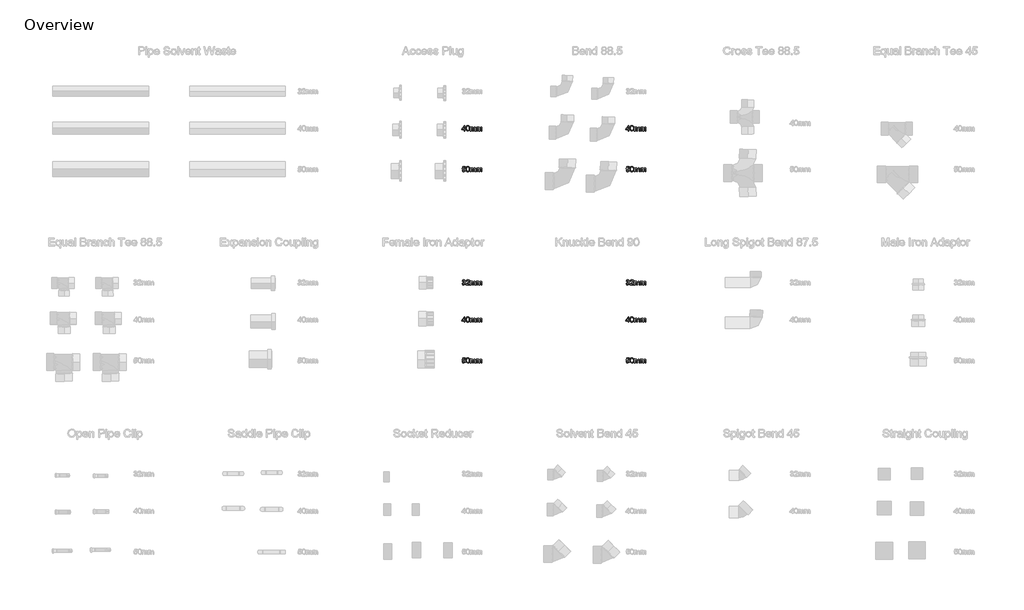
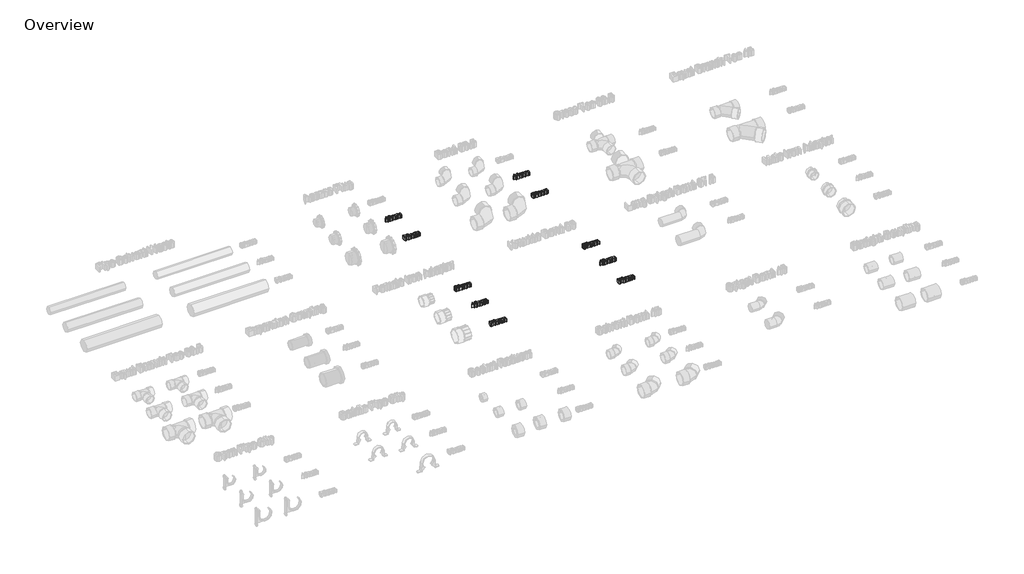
# One storey, part 7 of 10: 10 proxies.
"""IFC4 building model written with IfcOpenShell, lengths in millimetres."""

import ifcopenshell
import ifcopenshell.guid

model = None  # the IFC model being written
_history = None  # IfcOwnerHistory: only IFC2X3 demands one
_inside = {}  # id of a spatial element -> (the spatial element, [elements in it])
_under = {}  # id of a project, library or spatial element -> (it, [spatial elements below it])
_declared = {}  # id of a project -> (the project, [libraries it declares])
_typed = {}  # id of a type object -> (the type object, [elements of that type])
_made_of = {}  # id of a material, layer set ... -> (it, [elements and type objects made of it])


def new_model(schema):
    """Start an empty IFC model of exactly this schema.

    Asked for "IFC4X3", IfcOpenShell would pick the latest addendum, in which some entities
    have other attributes; the version numbers below select the first issue.
    IFC2X3 requires an IfcOwnerHistory on every rooted entity: one is made here for all.
    """
    global model, _history
    if schema == "IFC4X3":
        model = ifcopenshell.file(schema_version=(4, 3, 0, 0))
    else:
        model = ifcopenshell.file(schema=schema)
    _inside.clear()
    _under.clear()
    _declared.clear()
    _typed.clear()
    _made_of.clear()
    _history = None
    if model.schema == "IFC2X3":
        org = make("IfcOrganization", Name="unknown")
        user = make(
            "IfcPersonAndOrganization",
            ThePerson=make("IfcPerson", FamilyName="unknown"),
            TheOrganization=org,
        )
        app = make(
            "IfcApplication",
            ApplicationDeveloper=org,
            Version="unknown",
            ApplicationFullName="unknown",
            ApplicationIdentifier="unknown",
        )
        _history = make(
            "IfcOwnerHistory",
            OwningUser=user,
            OwningApplication=app,
            ChangeAction="ADDED",
            CreationDate=0,
        )
    return model


def make(cls, **values):
    """One entity of the class cls with the attributes given. An attribute that is None is left unset."""
    return model.create_entity(
        cls, **{name: value for name, value in values.items() if value is not None}
    )


def rooted(cls, **values):
    """An entity with a GlobalId (a new one), such as an element, a storey or a relation."""
    return make(cls, GlobalId=ifcopenshell.guid.new(), OwnerHistory=_history, **values)


def si_unit(unit_type, name, prefix=None):
    """IfcSIUnit, for example si_unit("LENGTHUNIT", "METRE", prefix="MILLI")."""
    return make("IfcSIUnit", UnitType=unit_type, Prefix=prefix, Name=name)


def assignment(units):
    """IfcUnitAssignment: the units of a project."""
    return None if units is None else make("IfcUnitAssignment", Units=units)


def point(xyz):
    """IfcCartesianPoint."""
    return None if xyz is None else make("IfcCartesianPoint", Coordinates=xyz)


def direction(xyz):
    """IfcDirection."""
    return None if xyz is None else make("IfcDirection", DirectionRatios=xyz)


def frame(location, z_axis=None, x_axis=None):
    """IfcAxis2Placement3D, a coordinate frame: its origin and axes. An axis left out is left unset."""
    return make(
        "IfcAxis2Placement3D",
        Location=point(location),
        Axis=direction(z_axis),
        RefDirection=direction(x_axis),
    )


def origin():
    """The frame at (0, 0, 0) with its axes left unset."""
    return frame((0.0, 0.0, 0.0))


def origin_with_axes():
    """The frame at (0, 0, 0) with the z axis (0, 0, 1) and the x axis (1, 0, 0) written out."""
    return frame((0.0, 0.0, 0.0), z_axis=(0.0, 0.0, 1.0), x_axis=(1.0, 0.0, 0.0))


def place(relative_to, where):
    """IfcLocalPlacement: puts the frame where relative to a parent placement (None: the world)."""
    return make(
        "IfcLocalPlacement", PlacementRelTo=relative_to, RelativePlacement=where
    )


def context(
    kind, dimensions, precision=None, world=None, true_north=None, identifier=None
):
    """IfcGeometricRepresentationContext, for example the 3D "Model" context."""
    return make(
        "IfcGeometricRepresentationContext",
        ContextIdentifier=identifier,
        ContextType=kind,
        CoordinateSpaceDimension=dimensions,
        Precision=precision,
        WorldCoordinateSystem=world,
        TrueNorth=true_north,
    )


def project(units=None, contexts=None):
    """IfcProject with its units and contexts."""
    return rooted(
        "IfcProject",
        Name="project",
        RepresentationContexts=contexts,
        UnitsInContext=assignment(units),
    )


def spatial(cls, under=None, at=None, **own):
    """A site, building, storey or space (cls), placed at a placement, below another one or the project."""
    s = rooted(cls, ObjectPlacement=at, **own)
    if under is not None:
        _under.setdefault(under.id(), (under, []))[1].append(s)
    return s


def polyline(points):
    """IfcPolyline through the points."""
    return make("IfcPolyline", Points=[point(p) for p in points])


def outline(outer, holes=None, kind="AREA"):
    """IfcArbitraryClosedProfileDef: a profile drawn as a closed curve; with holes, ...WithVoids."""
    if holes is None:
        return make("IfcArbitraryClosedProfileDef", ProfileType=kind, OuterCurve=outer)
    return make(
        "IfcArbitraryProfileDefWithVoids",
        ProfileType=kind,
        OuterCurve=outer,
        InnerCurves=holes,
    )


def extrude(swept, where, along, depth):
    """IfcExtrudedAreaSolid: the profile swept, set in the frame where, extruded along a direction by depth."""
    return make(
        "IfcExtrudedAreaSolid",
        SweptArea=swept,
        Position=where,
        ExtrudedDirection=direction(along),
        Depth=depth,
    )


def shape(context_of_items, identifier, shape_type, items):
    """IfcShapeRepresentation: the items that make up one representation, for example the "Body"."""
    return make(
        "IfcShapeRepresentation",
        ContextOfItems=context_of_items,
        RepresentationIdentifier=identifier,
        RepresentationType=shape_type,
        Items=items,
    )


def made_of(thing, what):
    """Note that an element or type object is made of a material, layer set ...; save() writes the relation."""
    if what is not None:
        _made_of.setdefault(what.id(), (what, []))[1].append(thing)
    return thing


def element(
    cls,
    number,
    at=None,
    inside=None,
    cuts=None,
    type_object=None,
    material=None,
    context=None,
    identifier="Body",
    shape_type=None,
    held_by="IfcProductDefinitionShape",
    body=None,
    shapes=None,
    **own,
):
    """One element of the class cls, such as IfcWall. Its Tag is "e" and its number.

    at: its placement. inside: the storey or other place that contains it. cuts: it is an
    opening in that element (IfcRelVoidsElement). A single representation is given by context,
    identifier, shape_type and body (its items); several are given by shapes. held_by: the class
    of the entity that holds the representations. save() writes the other relations.
    """
    e = rooted(cls, Tag="e%d" % number, ObjectPlacement=at, **own)
    if body is not None:
        shapes = [shape(context, identifier, shape_type, body)]
    if shapes is not None:
        e.Representation = make(held_by, Representations=shapes)
    if inside is not None:
        _inside.setdefault(inside.id(), (inside, []))[1].append(e)
    if cuts is not None:
        rooted(
            "IfcRelVoidsElement", RelatingBuildingElement=cuts, RelatedOpeningElement=e
        )
    if type_object is not None:
        _typed.setdefault(type_object.id(), (type_object, []))[1].append(e)
    return made_of(e, material)


def aggregate(whole, parts):
    """IfcRelAggregates: a whole, such as a stair, and the parts it consists of."""
    return rooted("IfcRelAggregates", RelatingObject=whole, RelatedObjects=parts)


def save(model, path):
    """Write the relations noted so far, then the file.

    IfcRelAggregates (storeys below a building ...), IfcRelContainedInSpatialStructure (elements
    in a storey), IfcRelDefinesByType, IfcRelAssociatesMaterial and IfcRelDeclares: one each for
    every whole, place, type object, material and project.
    """
    for whole, parts in _under.values():
        aggregate(whole, parts)
    for where, things in _inside.values():
        rooted(
            "IfcRelContainedInSpatialStructure",
            RelatedElements=things,
            RelatingStructure=where,
        )
    for kind, things in _typed.values():
        rooted("IfcRelDefinesByType", RelatedObjects=things, RelatingType=kind)
    for what, things in _made_of.values():
        rooted("IfcRelAssociatesMaterial", RelatedObjects=things, RelatingMaterial=what)
    for by, libraries in _declared.values():
        rooted("IfcRelDeclares", RelatingContext=by, RelatedDefinitions=libraries)
    model.write(path)


model = new_model("IFC4")

# Units and contexts
model_context = context("Model", 3, world=origin())
ifc_project = project(units=[si_unit("LENGTHUNIT", "METRE", prefix="MILLI")], contexts=[model_context])

# Site, building, storey
site = spatial("IfcSite", under=ifc_project)
building = spatial("IfcBuilding", under=site)
storey = spatial("IfcBuildingStorey", under=building, Name="Overview", Elevation=0.0)

# Proxies
placement = place(None, origin())
element("IfcBuildingElementProxy", 1, Name="20mm Arial", ObjectType="20mm Arial", at=placement, inside=storey, context=model_context, shape_type="SweptSolid", body=[
    extrude(outline(polyline([(-1698.2349117, 4421.4652453), (-1695.7733732, 4421.7729376), (-1694.4152001, 4419.1815914), (-1691.8743347, 4418.3883222), (-1688.8839501, 4419.4796684), (-1687.7733732, 4422.1815914), (-1688.8743347, 4424.7272645), (-1691.6724117, 4425.7344761), (-1693.3983732, 4425.4652453), (-1693.1243347, 4427.9267837), (-1689.9368347, 4428.6046684), (-1688.6964501, 4430.7777453), (-1689.5954886, 4432.7032261), (-1691.9127963, 4433.4652453), (-1694.2589501, 4432.6960145), (-1695.4656809, 4430.3883222), (-1697.9272194, 4430.6960145), (-1695.9127963, 4434.5565914), (-1691.9993347, 4435.9267837), (-1689.0305847, 4435.251303), (-1686.9536617, 4433.4051491), (-1686.2349117, 4430.9219761), (-1686.917604, 4428.6527453), (-1688.9368347, 4427.0229376), (-1686.2541424, 4425.3402453), (-1685.3118347, 4422.1383222), (-1687.1964501, 4417.7344761), (-1691.9608732, 4415.9267837), (-1696.2781809, 4417.470053), (-1698.2349117, 4421.4652453)])), origin_with_axes(), (0.0, 0.0, 1.0), 15.0),
    extrude(outline(polyline([(-1670.542604, 4418.6960145), (-1670.542604, 4416.2344761), (-1683.4656809, 4416.2344761), (-1683.2012578, 4417.9315914), (-1681.7060655, 4420.5445722), (-1678.6243347, 4423.3979376), (-1674.3743347, 4427.4988991), (-1673.3118347, 4430.2873607), (-1674.3142386, 4432.5445722), (-1676.9320271, 4433.4652453), (-1679.6603924, 4432.5662068), (-1680.6964501, 4430.0806299), (-1683.1579886, 4430.3883222), (-1681.2709694, 4434.5085145), (-1676.8791424, 4435.9267837), (-1672.4728924, 4434.3498607), (-1670.8502963, 4430.4363991), (-1671.2877963, 4428.1022645), (-1672.7421232, 4425.688803), (-1676.2685655, 4422.3162068), (-1679.1002963, 4419.9484184), (-1680.2108732, 4418.6960145), (-1670.542604, 4418.6960145)])), origin_with_axes(), (0.0, 0.0, 1.0), 15.0),
    extrude(outline(polyline([(-1667.4656809, 4416.2344761), (-1667.4656809, 4430.6960145), (-1665.0041424, 4430.6960145), (-1665.0041424, 4428.3162068), (-1663.3118347, 4430.2657261), (-1660.9031809, 4431.0037068), (-1658.4368347, 4430.251303), (-1657.0810655, 4428.1431299), (-1652.7349117, 4431.0037068), (-1649.5161617, 4429.813803), (-1648.3887578, 4426.1479376), (-1648.3887578, 4416.2344761), (-1650.8502963, 4416.2344761), (-1650.8502963, 4425.0902453), (-1651.0786617, 4427.1455337), (-1655.7325078, 4427.5565914), (-1656.6964501, 4424.3979376), (-1656.6964501, 4416.2344761), (-1659.1579886, 4416.2344761), (-1659.1579886, 4425.3642837), (-1659.7277001, 4427.7488991), (-1661.5954886, 4428.5421684), (-1663.417604, 4428.0133222), (-1664.6291424, 4426.4652453), (-1665.0041424, 4423.5277453), (-1665.0041424, 4416.2344761), (-1667.4656809, 4416.2344761)])), origin_with_axes(), (0.0, 0.0, 1.0), 15.0),
    extrude(outline(polyline([(-1644.6964501, 4416.2344761), (-1644.6964501, 4430.6960145), (-1642.2349117, 4430.6960145), (-1642.2349117, 4428.3162068), (-1640.542604, 4430.2657261), (-1638.1339501, 4431.0037068), (-1635.667604, 4430.251303), (-1634.3118347, 4428.1431299), (-1629.9656809, 4431.0037068), (-1626.7469309, 4429.813803), (-1625.6195271, 4426.1479376), (-1625.6195271, 4416.2344761), (-1628.0810655, 4416.2344761), (-1628.0810655, 4425.0902453), (-1628.3094309, 4427.1455337), (-1632.9632771, 4427.5565914), (-1633.9272194, 4424.3979376), (-1633.9272194, 4416.2344761), (-1636.3887578, 4416.2344761), (-1636.3887578, 4425.3642837), (-1636.9584694, 4427.7488991), (-1638.8262578, 4428.5421684), (-1640.6483732, 4428.0133222), (-1641.8599117, 4426.4652453), (-1642.2349117, 4423.5277453), (-1642.2349117, 4416.2344761), (-1644.6964501, 4416.2344761)])), origin_with_axes(), (0.0, 0.0, 1.0), 15.0),
])
element("IfcBuildingElementProxy", 2, Name="20mm Arial", ObjectType="20mm Arial", at=placement, inside=storey, context=model_context, shape_type="SweptSolid", body=[
    extrude(outline(polyline([(-1690.2349117, 4280.5685355), (-1690.2349117, 4285.1839201), (-1699.1579886, 4285.1839201), (-1699.1579886, 4287.6454586), (-1689.6195271, 4299.9531509), (-1687.7733732, 4299.9531509), (-1687.7733732, 4287.6454586), (-1685.3118347, 4287.6454586), (-1685.3118347, 4285.1839201), (-1687.7733732, 4285.1839201), (-1687.7733732, 4280.5685355), (-1690.2349117, 4280.5685355)]), holes=[polyline([(-1690.2349117, 4287.6454586), (-1690.2349117, 4295.2512278), (-1696.1291424, 4287.6454586), (-1690.2349117, 4287.6454586)])]), origin_with_axes(), (0.0, 0.0, 1.0), 15.0),
    extrude(outline(polyline([(-1683.1579886, 4290.2560355), (-1682.4344309, 4295.9219009), (-1680.2853924, 4299.1887278), (-1676.6964501, 4300.2608432), (-1673.8214501, 4299.6262278), (-1671.8358732, 4297.7969009), (-1670.6820271, 4294.8834393), (-1670.2349117, 4290.2560355), (-1670.9512578, 4284.6142086), (-1673.0930847, 4281.3401701), (-1676.6964501, 4280.2608432), (-1681.1964501, 4282.1358432), (-1683.1579886, 4290.2560355)]), holes=[polyline([(-1680.6964501, 4290.2608432), (-1679.542604, 4284.1478624), (-1676.6964501, 4282.7223816), (-1673.8502963, 4284.1526701), (-1672.6964501, 4290.2608432), (-1673.8118347, 4296.3041124), (-1676.7252963, 4297.7993047), (-1679.5041424, 4296.481997), (-1680.6964501, 4290.2608432)])]), origin_with_axes(), (0.0, 0.0, 1.0), 15.0),
    extrude(outline(polyline([(-1667.4656809, 4280.5685355), (-1667.4656809, 4295.030074), (-1665.0041424, 4295.030074), (-1665.0041424, 4292.6502663), (-1663.3118347, 4294.5997855), (-1660.9031809, 4295.3377663), (-1658.4368347, 4294.5853624), (-1657.0810655, 4292.4771893), (-1652.7349117, 4295.3377663), (-1649.5161617, 4294.1478624), (-1648.3887578, 4290.481997), (-1648.3887578, 4280.5685355), (-1650.8502963, 4280.5685355), (-1650.8502963, 4289.4243047), (-1651.0786617, 4291.4795932), (-1655.7325078, 4291.8906509), (-1656.6964501, 4288.731997), (-1656.6964501, 4280.5685355), (-1659.1579886, 4280.5685355), (-1659.1579886, 4289.6983432), (-1659.7277001, 4292.0829586), (-1661.5954886, 4292.8762278), (-1663.417604, 4292.3473816), (-1664.6291424, 4290.7993047), (-1665.0041424, 4287.8618047), (-1665.0041424, 4280.5685355), (-1667.4656809, 4280.5685355)])), origin_with_axes(), (0.0, 0.0, 1.0), 15.0),
    extrude(outline(polyline([(-1644.6964501, 4280.5685355), (-1644.6964501, 4295.030074), (-1642.2349117, 4295.030074), (-1642.2349117, 4292.6502663), (-1640.542604, 4294.5997855), (-1638.1339501, 4295.3377663), (-1635.667604, 4294.5853624), (-1634.3118347, 4292.4771893), (-1629.9656809, 4295.3377663), (-1626.7469309, 4294.1478624), (-1625.6195271, 4290.481997), (-1625.6195271, 4280.5685355), (-1628.0810655, 4280.5685355), (-1628.0810655, 4289.4243047), (-1628.3094309, 4291.4795932), (-1632.9632771, 4291.8906509), (-1633.9272194, 4288.731997), (-1633.9272194, 4280.5685355), (-1636.3887578, 4280.5685355), (-1636.3887578, 4289.6983432), (-1636.9584694, 4292.0829586), (-1638.8262578, 4292.8762278), (-1640.6483732, 4292.3473816), (-1641.8599117, 4290.7993047), (-1642.2349117, 4287.8618047), (-1642.2349117, 4280.5685355), (-1644.6964501, 4280.5685355)])), origin_with_axes(), (0.0, 0.0, 1.0), 15.0),
])
element("IfcBuildingElementProxy", 3, Name="20mm Arial", ObjectType="20mm Arial", at=placement, inside=storey, context=model_context, shape_type="SweptSolid", body=[
    extrude(outline(polyline([(-1698.2349117, 4136.1445961), (-1695.7733732, 4136.4522884), (-1694.5329886, 4133.9162307), (-1691.9608732, 4133.067673), (-1688.8743347, 4134.2479615), (-1687.7733732, 4137.380173), (-1688.8046232, 4140.3032499), (-1691.9224117, 4141.3753653), (-1694.0834694, 4140.9474807), (-1695.4656809, 4139.8369038), (-1697.9272194, 4140.1445961), (-1695.7733732, 4150.2984422), (-1686.2349117, 4150.2984422), (-1686.2349117, 4147.8369038), (-1693.7829886, 4147.8369038), (-1694.8358732, 4142.4138269), (-1691.2349117, 4143.8369038), (-1687.0257771, 4142.0724807), (-1685.3118347, 4137.5340192), (-1686.855104, 4132.9667115), (-1691.9704886, 4130.6061346), (-1696.3142386, 4132.1229615), (-1698.2349117, 4136.1445961)])), origin_with_axes(), (0.0, 0.0, 1.0), 15.0),
    extrude(outline(polyline([(-1683.1579886, 4140.6013269), (-1682.4344309, 4146.2671922), (-1680.2853924, 4149.5340192), (-1676.6964501, 4150.6061346), (-1673.8214501, 4149.9715192), (-1671.8358732, 4148.1421922), (-1670.6820271, 4145.2287307), (-1670.2349117, 4140.6013269), (-1670.9512578, 4134.9594999), (-1673.0930847, 4131.6854615), (-1676.6964501, 4130.6061346), (-1681.1964501, 4132.4811346), (-1683.1579886, 4140.6013269)]), holes=[polyline([(-1680.6964501, 4140.6061346), (-1679.542604, 4134.4931538), (-1676.6964501, 4133.067673), (-1673.8502963, 4134.4979615), (-1672.6964501, 4140.6061346), (-1673.8118347, 4146.6494038), (-1676.7252963, 4148.1445961), (-1679.5041424, 4146.8272884), (-1680.6964501, 4140.6061346)])]), origin_with_axes(), (0.0, 0.0, 1.0), 15.0),
    extrude(outline(polyline([(-1667.4656809, 4130.9138269), (-1667.4656809, 4145.3753653), (-1665.0041424, 4145.3753653), (-1665.0041424, 4142.9955576), (-1663.3118347, 4144.9450769), (-1660.9031809, 4145.6830576), (-1658.4368347, 4144.9306538), (-1657.0810655, 4142.8224807), (-1652.7349117, 4145.6830576), (-1649.5161617, 4144.4931538), (-1648.3887578, 4140.8272884), (-1648.3887578, 4130.9138269), (-1650.8502963, 4130.9138269), (-1650.8502963, 4139.7695961), (-1651.0786617, 4141.8248846), (-1655.7325078, 4142.2359422), (-1656.6964501, 4139.0772884), (-1656.6964501, 4130.9138269), (-1659.1579886, 4130.9138269), (-1659.1579886, 4140.0436346), (-1659.7277001, 4142.4282499), (-1661.5954886, 4143.2215192), (-1663.417604, 4142.692673), (-1664.6291424, 4141.1445961), (-1665.0041424, 4138.2070961), (-1665.0041424, 4130.9138269), (-1667.4656809, 4130.9138269)])), origin_with_axes(), (0.0, 0.0, 1.0), 15.0),
    extrude(outline(polyline([(-1644.6964501, 4130.9138269), (-1644.6964501, 4145.3753653), (-1642.2349117, 4145.3753653), (-1642.2349117, 4142.9955576), (-1640.542604, 4144.9450769), (-1638.1339501, 4145.6830576), (-1635.667604, 4144.9306538), (-1634.3118347, 4142.8224807), (-1629.9656809, 4145.6830576), (-1626.7469309, 4144.4931538), (-1625.6195271, 4140.8272884), (-1625.6195271, 4130.9138269), (-1628.0810655, 4130.9138269), (-1628.0810655, 4139.7695961), (-1628.3094309, 4141.8248846), (-1632.9632771, 4142.2359422), (-1633.9272194, 4139.0772884), (-1633.9272194, 4130.9138269), (-1636.3887578, 4130.9138269), (-1636.3887578, 4140.0436346), (-1636.9584694, 4142.4282499), (-1638.8262578, 4143.2215192), (-1640.6483732, 4142.692673), (-1641.8599117, 4141.1445961), (-1642.2349117, 4138.2070961), (-1642.2349117, 4130.9138269), (-1644.6964501, 4130.9138269)])), origin_with_axes(), (0.0, 0.0, 1.0), 15.0),
])
element("IfcBuildingElementProxy", 4, Name="20mm Arial", ObjectType="20mm Arial", at=placement, inside=storey, context=model_context, shape_type="SweptSolid", body=[
    extrude(outline(polyline([(-1098.2349117, 4421.4652453), (-1095.7733732, 4421.7729376), (-1094.4152001, 4419.1815914), (-1091.8743347, 4418.3883222), (-1088.8839501, 4419.4796684), (-1087.7733732, 4422.1815914), (-1088.8743347, 4424.7272645), (-1091.6724117, 4425.7344761), (-1093.3983732, 4425.4652453), (-1093.1243347, 4427.9267837), (-1089.9368347, 4428.6046684), (-1088.6964501, 4430.7777453), (-1089.5954886, 4432.7032261), (-1091.9127963, 4433.4652453), (-1094.2589501, 4432.6960145), (-1095.4656809, 4430.3883222), (-1097.9272194, 4430.6960145), (-1095.9127963, 4434.5565914), (-1091.9993347, 4435.9267837), (-1089.0305847, 4435.251303), (-1086.9536617, 4433.4051491), (-1086.2349117, 4430.9219761), (-1086.917604, 4428.6527453), (-1088.9368347, 4427.0229376), (-1086.2541424, 4425.3402453), (-1085.3118347, 4422.1383222), (-1087.1964501, 4417.7344761), (-1091.9608732, 4415.9267837), (-1096.2781809, 4417.470053), (-1098.2349117, 4421.4652453)])), origin_with_axes(), (0.0, 0.0, 1.0), 15.0),
    extrude(outline(polyline([(-1070.542604, 4418.6960145), (-1070.542604, 4416.2344761), (-1083.4656809, 4416.2344761), (-1083.2012578, 4417.9315914), (-1081.7060655, 4420.5445722), (-1078.6243347, 4423.3979376), (-1074.3743347, 4427.4988991), (-1073.3118347, 4430.2873607), (-1074.3142386, 4432.5445722), (-1076.9320271, 4433.4652453), (-1079.6603924, 4432.5662068), (-1080.6964501, 4430.0806299), (-1083.1579886, 4430.3883222), (-1081.2709694, 4434.5085145), (-1076.8791424, 4435.9267837), (-1072.4728924, 4434.3498607), (-1070.8502963, 4430.4363991), (-1071.2877963, 4428.1022645), (-1072.7421232, 4425.688803), (-1076.2685655, 4422.3162068), (-1079.1002963, 4419.9484184), (-1080.2108732, 4418.6960145), (-1070.542604, 4418.6960145)])), origin_with_axes(), (0.0, 0.0, 1.0), 15.0),
    extrude(outline(polyline([(-1067.4656809, 4416.2344761), (-1067.4656809, 4430.6960145), (-1065.0041424, 4430.6960145), (-1065.0041424, 4428.3162068), (-1063.3118347, 4430.2657261), (-1060.9031809, 4431.0037068), (-1058.4368347, 4430.251303), (-1057.0810655, 4428.1431299), (-1052.7349117, 4431.0037068), (-1049.5161617, 4429.813803), (-1048.3887578, 4426.1479376), (-1048.3887578, 4416.2344761), (-1050.8502963, 4416.2344761), (-1050.8502963, 4425.0902453), (-1051.0786617, 4427.1455337), (-1055.7325078, 4427.5565914), (-1056.6964501, 4424.3979376), (-1056.6964501, 4416.2344761), (-1059.1579886, 4416.2344761), (-1059.1579886, 4425.3642837), (-1059.7277001, 4427.7488991), (-1061.5954886, 4428.5421684), (-1063.417604, 4428.0133222), (-1064.6291424, 4426.4652453), (-1065.0041424, 4423.5277453), (-1065.0041424, 4416.2344761), (-1067.4656809, 4416.2344761)])), origin_with_axes(), (0.0, 0.0, 1.0), 15.0),
    extrude(outline(polyline([(-1044.6964501, 4416.2344761), (-1044.6964501, 4430.6960145), (-1042.2349117, 4430.6960145), (-1042.2349117, 4428.3162068), (-1040.542604, 4430.2657261), (-1038.1339501, 4431.0037068), (-1035.667604, 4430.251303), (-1034.3118347, 4428.1431299), (-1029.9656809, 4431.0037068), (-1026.7469309, 4429.813803), (-1025.6195271, 4426.1479376), (-1025.6195271, 4416.2344761), (-1028.0810655, 4416.2344761), (-1028.0810655, 4425.0902453), (-1028.3094309, 4427.1455337), (-1032.9632771, 4427.5565914), (-1033.9272194, 4424.3979376), (-1033.9272194, 4416.2344761), (-1036.3887578, 4416.2344761), (-1036.3887578, 4425.3642837), (-1036.9584694, 4427.7488991), (-1038.8262578, 4428.5421684), (-1040.6483732, 4428.0133222), (-1041.8599117, 4426.4652453), (-1042.2349117, 4423.5277453), (-1042.2349117, 4416.2344761), (-1044.6964501, 4416.2344761)])), origin_with_axes(), (0.0, 0.0, 1.0), 15.0),
])
element("IfcBuildingElementProxy", 5, Name="20mm Arial", ObjectType="20mm Arial", at=placement, inside=storey, context=model_context, shape_type="SweptSolid", body=[
    extrude(outline(polyline([(-1090.2349117, 4280.5685355), (-1090.2349117, 4285.1839201), (-1099.1579886, 4285.1839201), (-1099.1579886, 4287.6454586), (-1089.6195271, 4299.9531509), (-1087.7733732, 4299.9531509), (-1087.7733732, 4287.6454586), (-1085.3118347, 4287.6454586), (-1085.3118347, 4285.1839201), (-1087.7733732, 4285.1839201), (-1087.7733732, 4280.5685355), (-1090.2349117, 4280.5685355)]), holes=[polyline([(-1090.2349117, 4287.6454586), (-1090.2349117, 4295.2512278), (-1096.1291424, 4287.6454586), (-1090.2349117, 4287.6454586)])]), origin_with_axes(), (0.0, 0.0, 1.0), 15.0),
    extrude(outline(polyline([(-1083.1579886, 4290.2560355), (-1082.4344309, 4295.9219009), (-1080.2853924, 4299.1887278), (-1076.6964501, 4300.2608432), (-1073.8214501, 4299.6262278), (-1071.8358732, 4297.7969009), (-1070.6820271, 4294.8834393), (-1070.2349117, 4290.2560355), (-1070.9512578, 4284.6142086), (-1073.0930847, 4281.3401701), (-1076.6964501, 4280.2608432), (-1081.1964501, 4282.1358432), (-1083.1579886, 4290.2560355)]), holes=[polyline([(-1080.6964501, 4290.2608432), (-1079.542604, 4284.1478624), (-1076.6964501, 4282.7223816), (-1073.8502963, 4284.1526701), (-1072.6964501, 4290.2608432), (-1073.8118347, 4296.3041124), (-1076.7252963, 4297.7993047), (-1079.5041424, 4296.481997), (-1080.6964501, 4290.2608432)])]), origin_with_axes(), (0.0, 0.0, 1.0), 15.0),
    extrude(outline(polyline([(-1067.4656809, 4280.5685355), (-1067.4656809, 4295.030074), (-1065.0041424, 4295.030074), (-1065.0041424, 4292.6502663), (-1063.3118347, 4294.5997855), (-1060.9031809, 4295.3377663), (-1058.4368347, 4294.5853624), (-1057.0810655, 4292.4771893), (-1052.7349117, 4295.3377663), (-1049.5161617, 4294.1478624), (-1048.3887578, 4290.481997), (-1048.3887578, 4280.5685355), (-1050.8502963, 4280.5685355), (-1050.8502963, 4289.4243047), (-1051.0786617, 4291.4795932), (-1055.7325078, 4291.8906509), (-1056.6964501, 4288.731997), (-1056.6964501, 4280.5685355), (-1059.1579886, 4280.5685355), (-1059.1579886, 4289.6983432), (-1059.7277001, 4292.0829586), (-1061.5954886, 4292.8762278), (-1063.417604, 4292.3473816), (-1064.6291424, 4290.7993047), (-1065.0041424, 4287.8618047), (-1065.0041424, 4280.5685355), (-1067.4656809, 4280.5685355)])), origin_with_axes(), (0.0, 0.0, 1.0), 15.0),
    extrude(outline(polyline([(-1044.6964501, 4280.5685355), (-1044.6964501, 4295.030074), (-1042.2349117, 4295.030074), (-1042.2349117, 4292.6502663), (-1040.542604, 4294.5997855), (-1038.1339501, 4295.3377663), (-1035.667604, 4294.5853624), (-1034.3118347, 4292.4771893), (-1029.9656809, 4295.3377663), (-1026.7469309, 4294.1478624), (-1025.6195271, 4290.481997), (-1025.6195271, 4280.5685355), (-1028.0810655, 4280.5685355), (-1028.0810655, 4289.4243047), (-1028.3094309, 4291.4795932), (-1032.9632771, 4291.8906509), (-1033.9272194, 4288.731997), (-1033.9272194, 4280.5685355), (-1036.3887578, 4280.5685355), (-1036.3887578, 4289.6983432), (-1036.9584694, 4292.0829586), (-1038.8262578, 4292.8762278), (-1040.6483732, 4292.3473816), (-1041.8599117, 4290.7993047), (-1042.2349117, 4287.8618047), (-1042.2349117, 4280.5685355), (-1044.6964501, 4280.5685355)])), origin_with_axes(), (0.0, 0.0, 1.0), 15.0),
])
element("IfcBuildingElementProxy", 6, Name="20mm Arial", ObjectType="20mm Arial", at=placement, inside=storey, context=model_context, shape_type="SweptSolid", body=[
    extrude(outline(polyline([(-1098.2349117, 4136.1445961), (-1095.7733732, 4136.4522884), (-1094.5329886, 4133.9162307), (-1091.9608732, 4133.067673), (-1088.8743347, 4134.2479615), (-1087.7733732, 4137.380173), (-1088.8046232, 4140.3032499), (-1091.9224117, 4141.3753653), (-1094.0834694, 4140.9474807), (-1095.4656809, 4139.8369038), (-1097.9272194, 4140.1445961), (-1095.7733732, 4150.2984422), (-1086.2349117, 4150.2984422), (-1086.2349117, 4147.8369038), (-1093.7829886, 4147.8369038), (-1094.8358732, 4142.4138269), (-1091.2349117, 4143.8369038), (-1087.0257771, 4142.0724807), (-1085.3118347, 4137.5340192), (-1086.855104, 4132.9667115), (-1091.9704886, 4130.6061346), (-1096.3142386, 4132.1229615), (-1098.2349117, 4136.1445961)])), origin_with_axes(), (0.0, 0.0, 1.0), 15.0),
    extrude(outline(polyline([(-1083.1579886, 4140.6013269), (-1082.4344309, 4146.2671922), (-1080.2853924, 4149.5340192), (-1076.6964501, 4150.6061346), (-1073.8214501, 4149.9715192), (-1071.8358732, 4148.1421922), (-1070.6820271, 4145.2287307), (-1070.2349117, 4140.6013269), (-1070.9512578, 4134.9594999), (-1073.0930847, 4131.6854615), (-1076.6964501, 4130.6061346), (-1081.1964501, 4132.4811346), (-1083.1579886, 4140.6013269)]), holes=[polyline([(-1080.6964501, 4140.6061346), (-1079.542604, 4134.4931538), (-1076.6964501, 4133.067673), (-1073.8502963, 4134.4979615), (-1072.6964501, 4140.6061346), (-1073.8118347, 4146.6494038), (-1076.7252963, 4148.1445961), (-1079.5041424, 4146.8272884), (-1080.6964501, 4140.6061346)])]), origin_with_axes(), (0.0, 0.0, 1.0), 15.0),
    extrude(outline(polyline([(-1067.4656809, 4130.9138269), (-1067.4656809, 4145.3753653), (-1065.0041424, 4145.3753653), (-1065.0041424, 4142.9955576), (-1063.3118347, 4144.9450769), (-1060.9031809, 4145.6830576), (-1058.4368347, 4144.9306538), (-1057.0810655, 4142.8224807), (-1052.7349117, 4145.6830576), (-1049.5161617, 4144.4931538), (-1048.3887578, 4140.8272884), (-1048.3887578, 4130.9138269), (-1050.8502963, 4130.9138269), (-1050.8502963, 4139.7695961), (-1051.0786617, 4141.8248846), (-1055.7325078, 4142.2359422), (-1056.6964501, 4139.0772884), (-1056.6964501, 4130.9138269), (-1059.1579886, 4130.9138269), (-1059.1579886, 4140.0436346), (-1059.7277001, 4142.4282499), (-1061.5954886, 4143.2215192), (-1063.417604, 4142.692673), (-1064.6291424, 4141.1445961), (-1065.0041424, 4138.2070961), (-1065.0041424, 4130.9138269), (-1067.4656809, 4130.9138269)])), origin_with_axes(), (0.0, 0.0, 1.0), 15.0),
    extrude(outline(polyline([(-1044.6964501, 4130.9138269), (-1044.6964501, 4145.3753653), (-1042.2349117, 4145.3753653), (-1042.2349117, 4142.9955576), (-1040.542604, 4144.9450769), (-1038.1339501, 4145.6830576), (-1035.667604, 4144.9306538), (-1034.3118347, 4142.8224807), (-1029.9656809, 4145.6830576), (-1026.7469309, 4144.4931538), (-1025.6195271, 4140.8272884), (-1025.6195271, 4130.9138269), (-1028.0810655, 4130.9138269), (-1028.0810655, 4139.7695961), (-1028.3094309, 4141.8248846), (-1032.9632771, 4142.2359422), (-1033.9272194, 4139.0772884), (-1033.9272194, 4130.9138269), (-1036.3887578, 4130.9138269), (-1036.3887578, 4140.0436346), (-1036.9584694, 4142.4282499), (-1038.8262578, 4143.2215192), (-1040.6483732, 4142.692673), (-1041.8599117, 4141.1445961), (-1042.2349117, 4138.2070961), (-1042.2349117, 4130.9138269), (-1044.6964501, 4130.9138269)])), origin_with_axes(), (0.0, 0.0, 1.0), 15.0),
])
element("IfcBuildingElementProxy", 7, Name="20mm Arial", ObjectType="20mm Arial", at=placement, inside=storey, context=model_context, shape_type="SweptSolid", body=[
    extrude(outline(polyline([(-1690.2349117, 4980.5685355), (-1690.2349117, 4985.1839201), (-1699.1579886, 4985.1839201), (-1699.1579886, 4987.6454586), (-1689.6195271, 4999.9531509), (-1687.7733732, 4999.9531509), (-1687.7733732, 4987.6454586), (-1685.3118347, 4987.6454586), (-1685.3118347, 4985.1839201), (-1687.7733732, 4985.1839201), (-1687.7733732, 4980.5685355), (-1690.2349117, 4980.5685355)]), holes=[polyline([(-1690.2349117, 4987.6454586), (-1690.2349117, 4995.2512278), (-1696.1291424, 4987.6454586), (-1690.2349117, 4987.6454586)])]), origin_with_axes(), (0.0, 0.0, 1.0), 15.0),
    extrude(outline(polyline([(-1683.1579886, 4990.2560355), (-1682.4344309, 4995.9219009), (-1680.2853924, 4999.1887278), (-1676.6964501, 5000.2608432), (-1673.8214501, 4999.6262278), (-1671.8358732, 4997.7969009), (-1670.6820271, 4994.8834393), (-1670.2349117, 4990.2560355), (-1670.9512578, 4984.6142086), (-1673.0930847, 4981.3401701), (-1676.6964501, 4980.2608432), (-1681.1964501, 4982.1358432), (-1683.1579886, 4990.2560355)]), holes=[polyline([(-1680.6964501, 4990.2608432), (-1679.542604, 4984.1478624), (-1676.6964501, 4982.7223816), (-1673.8502963, 4984.1526701), (-1672.6964501, 4990.2608432), (-1673.8118347, 4996.3041124), (-1676.7252963, 4997.7993047), (-1679.5041424, 4996.481997), (-1680.6964501, 4990.2608432)])]), origin_with_axes(), (0.0, 0.0, 1.0), 15.0),
    extrude(outline(polyline([(-1667.4656809, 4980.5685355), (-1667.4656809, 4995.030074), (-1665.0041424, 4995.030074), (-1665.0041424, 4992.6502663), (-1663.3118347, 4994.5997855), (-1660.9031809, 4995.3377663), (-1658.4368347, 4994.5853624), (-1657.0810655, 4992.4771893), (-1652.7349117, 4995.3377663), (-1649.5161617, 4994.1478624), (-1648.3887578, 4990.481997), (-1648.3887578, 4980.5685355), (-1650.8502963, 4980.5685355), (-1650.8502963, 4989.4243047), (-1651.0786617, 4991.4795932), (-1655.7325078, 4991.8906509), (-1656.6964501, 4988.731997), (-1656.6964501, 4980.5685355), (-1659.1579886, 4980.5685355), (-1659.1579886, 4989.6983432), (-1659.7277001, 4992.0829586), (-1661.5954886, 4992.8762278), (-1663.417604, 4992.3473816), (-1664.6291424, 4990.7993047), (-1665.0041424, 4987.8618047), (-1665.0041424, 4980.5685355), (-1667.4656809, 4980.5685355)])), origin_with_axes(), (0.0, 0.0, 1.0), 15.0),
    extrude(outline(polyline([(-1644.6964501, 4980.5685355), (-1644.6964501, 4995.030074), (-1642.2349117, 4995.030074), (-1642.2349117, 4992.6502663), (-1640.542604, 4994.5997855), (-1638.1339501, 4995.3377663), (-1635.667604, 4994.5853624), (-1634.3118347, 4992.4771893), (-1629.9656809, 4995.3377663), (-1626.7469309, 4994.1478624), (-1625.6195271, 4990.481997), (-1625.6195271, 4980.5685355), (-1628.0810655, 4980.5685355), (-1628.0810655, 4989.4243047), (-1628.3094309, 4991.4795932), (-1632.9632771, 4991.8906509), (-1633.9272194, 4988.731997), (-1633.9272194, 4980.5685355), (-1636.3887578, 4980.5685355), (-1636.3887578, 4989.6983432), (-1636.9584694, 4992.0829586), (-1638.8262578, 4992.8762278), (-1640.6483732, 4992.3473816), (-1641.8599117, 4990.7993047), (-1642.2349117, 4987.8618047), (-1642.2349117, 4980.5685355), (-1644.6964501, 4980.5685355)])), origin_with_axes(), (0.0, 0.0, 1.0), 15.0),
])
element("IfcBuildingElementProxy", 8, Name="20mm Arial", ObjectType="20mm Arial", at=placement, inside=storey, context=model_context, shape_type="SweptSolid", body=[
    extrude(outline(polyline([(-1698.2349117, 4836.1445961), (-1695.7733732, 4836.4522884), (-1694.5329886, 4833.9162307), (-1691.9608732, 4833.067673), (-1688.8743347, 4834.2479615), (-1687.7733732, 4837.380173), (-1688.8046232, 4840.3032499), (-1691.9224117, 4841.3753653), (-1694.0834694, 4840.9474807), (-1695.4656809, 4839.8369038), (-1697.9272194, 4840.1445961), (-1695.7733732, 4850.2984422), (-1686.2349117, 4850.2984422), (-1686.2349117, 4847.8369038), (-1693.7829886, 4847.8369038), (-1694.8358732, 4842.4138269), (-1691.2349117, 4843.8369038), (-1687.0257771, 4842.0724807), (-1685.3118347, 4837.5340192), (-1686.855104, 4832.9667115), (-1691.9704886, 4830.6061346), (-1696.3142386, 4832.1229615), (-1698.2349117, 4836.1445961)])), origin_with_axes(), (0.0, 0.0, 1.0), 15.0),
    extrude(outline(polyline([(-1683.1579886, 4840.6013269), (-1682.4344309, 4846.2671922), (-1680.2853924, 4849.5340192), (-1676.6964501, 4850.6061346), (-1673.8214501, 4849.9715192), (-1671.8358732, 4848.1421922), (-1670.6820271, 4845.2287307), (-1670.2349117, 4840.6013269), (-1670.9512578, 4834.9594999), (-1673.0930847, 4831.6854615), (-1676.6964501, 4830.6061346), (-1681.1964501, 4832.4811346), (-1683.1579886, 4840.6013269)]), holes=[polyline([(-1680.6964501, 4840.6061346), (-1679.542604, 4834.4931538), (-1676.6964501, 4833.067673), (-1673.8502963, 4834.4979615), (-1672.6964501, 4840.6061346), (-1673.8118347, 4846.6494038), (-1676.7252963, 4848.1445961), (-1679.5041424, 4846.8272884), (-1680.6964501, 4840.6061346)])]), origin_with_axes(), (0.0, 0.0, 1.0), 15.0),
    extrude(outline(polyline([(-1667.4656809, 4830.9138269), (-1667.4656809, 4845.3753653), (-1665.0041424, 4845.3753653), (-1665.0041424, 4842.9955576), (-1663.3118347, 4844.9450769), (-1660.9031809, 4845.6830576), (-1658.4368347, 4844.9306538), (-1657.0810655, 4842.8224807), (-1652.7349117, 4845.6830576), (-1649.5161617, 4844.4931538), (-1648.3887578, 4840.8272884), (-1648.3887578, 4830.9138269), (-1650.8502963, 4830.9138269), (-1650.8502963, 4839.7695961), (-1651.0786617, 4841.8248846), (-1655.7325078, 4842.2359422), (-1656.6964501, 4839.0772884), (-1656.6964501, 4830.9138269), (-1659.1579886, 4830.9138269), (-1659.1579886, 4840.0436346), (-1659.7277001, 4842.4282499), (-1661.5954886, 4843.2215192), (-1663.417604, 4842.692673), (-1664.6291424, 4841.1445961), (-1665.0041424, 4838.2070961), (-1665.0041424, 4830.9138269), (-1667.4656809, 4830.9138269)])), origin_with_axes(), (0.0, 0.0, 1.0), 15.0),
    extrude(outline(polyline([(-1644.6964501, 4830.9138269), (-1644.6964501, 4845.3753653), (-1642.2349117, 4845.3753653), (-1642.2349117, 4842.9955576), (-1640.542604, 4844.9450769), (-1638.1339501, 4845.6830576), (-1635.667604, 4844.9306538), (-1634.3118347, 4842.8224807), (-1629.9656809, 4845.6830576), (-1626.7469309, 4844.4931538), (-1625.6195271, 4840.8272884), (-1625.6195271, 4830.9138269), (-1628.0810655, 4830.9138269), (-1628.0810655, 4839.7695961), (-1628.3094309, 4841.8248846), (-1632.9632771, 4842.2359422), (-1633.9272194, 4839.0772884), (-1633.9272194, 4830.9138269), (-1636.3887578, 4830.9138269), (-1636.3887578, 4840.0436346), (-1636.9584694, 4842.4282499), (-1638.8262578, 4843.2215192), (-1640.6483732, 4842.692673), (-1641.8599117, 4841.1445961), (-1642.2349117, 4838.2070961), (-1642.2349117, 4830.9138269), (-1644.6964501, 4830.9138269)])), origin_with_axes(), (0.0, 0.0, 1.0), 15.0),
])
element("IfcBuildingElementProxy", 9, Name="20mm Arial", ObjectType="20mm Arial", at=placement, inside=storey, context=model_context, shape_type="SweptSolid", body=[
    extrude(outline(polyline([(-1090.2349117, 4980.5685355), (-1090.2349117, 4985.1839201), (-1099.1579886, 4985.1839201), (-1099.1579886, 4987.6454586), (-1089.6195271, 4999.9531509), (-1087.7733732, 4999.9531509), (-1087.7733732, 4987.6454586), (-1085.3118347, 4987.6454586), (-1085.3118347, 4985.1839201), (-1087.7733732, 4985.1839201), (-1087.7733732, 4980.5685355), (-1090.2349117, 4980.5685355)]), holes=[polyline([(-1090.2349117, 4987.6454586), (-1090.2349117, 4995.2512278), (-1096.1291424, 4987.6454586), (-1090.2349117, 4987.6454586)])]), origin_with_axes(), (0.0, 0.0, 1.0), 15.0),
    extrude(outline(polyline([(-1083.1579886, 4990.2560355), (-1082.4344309, 4995.9219009), (-1080.2853924, 4999.1887278), (-1076.6964501, 5000.2608432), (-1073.8214501, 4999.6262278), (-1071.8358732, 4997.7969009), (-1070.6820271, 4994.8834393), (-1070.2349117, 4990.2560355), (-1070.9512578, 4984.6142086), (-1073.0930847, 4981.3401701), (-1076.6964501, 4980.2608432), (-1081.1964501, 4982.1358432), (-1083.1579886, 4990.2560355)]), holes=[polyline([(-1080.6964501, 4990.2608432), (-1079.542604, 4984.1478624), (-1076.6964501, 4982.7223816), (-1073.8502963, 4984.1526701), (-1072.6964501, 4990.2608432), (-1073.8118347, 4996.3041124), (-1076.7252963, 4997.7993047), (-1079.5041424, 4996.481997), (-1080.6964501, 4990.2608432)])]), origin_with_axes(), (0.0, 0.0, 1.0), 15.0),
    extrude(outline(polyline([(-1067.4656809, 4980.5685355), (-1067.4656809, 4995.030074), (-1065.0041424, 4995.030074), (-1065.0041424, 4992.6502663), (-1063.3118347, 4994.5997855), (-1060.9031809, 4995.3377663), (-1058.4368347, 4994.5853624), (-1057.0810655, 4992.4771893), (-1052.7349117, 4995.3377663), (-1049.5161617, 4994.1478624), (-1048.3887578, 4990.481997), (-1048.3887578, 4980.5685355), (-1050.8502963, 4980.5685355), (-1050.8502963, 4989.4243047), (-1051.0786617, 4991.4795932), (-1055.7325078, 4991.8906509), (-1056.6964501, 4988.731997), (-1056.6964501, 4980.5685355), (-1059.1579886, 4980.5685355), (-1059.1579886, 4989.6983432), (-1059.7277001, 4992.0829586), (-1061.5954886, 4992.8762278), (-1063.417604, 4992.3473816), (-1064.6291424, 4990.7993047), (-1065.0041424, 4987.8618047), (-1065.0041424, 4980.5685355), (-1067.4656809, 4980.5685355)])), origin_with_axes(), (0.0, 0.0, 1.0), 15.0),
    extrude(outline(polyline([(-1044.6964501, 4980.5685355), (-1044.6964501, 4995.030074), (-1042.2349117, 4995.030074), (-1042.2349117, 4992.6502663), (-1040.542604, 4994.5997855), (-1038.1339501, 4995.3377663), (-1035.667604, 4994.5853624), (-1034.3118347, 4992.4771893), (-1029.9656809, 4995.3377663), (-1026.7469309, 4994.1478624), (-1025.6195271, 4990.481997), (-1025.6195271, 4980.5685355), (-1028.0810655, 4980.5685355), (-1028.0810655, 4989.4243047), (-1028.3094309, 4991.4795932), (-1032.9632771, 4991.8906509), (-1033.9272194, 4988.731997), (-1033.9272194, 4980.5685355), (-1036.3887578, 4980.5685355), (-1036.3887578, 4989.6983432), (-1036.9584694, 4992.0829586), (-1038.8262578, 4992.8762278), (-1040.6483732, 4992.3473816), (-1041.8599117, 4990.7993047), (-1042.2349117, 4987.8618047), (-1042.2349117, 4980.5685355), (-1044.6964501, 4980.5685355)])), origin_with_axes(), (0.0, 0.0, 1.0), 15.0),
])
element("IfcBuildingElementProxy", 10, Name="20mm Arial", ObjectType="20mm Arial", at=placement, inside=storey, context=model_context, shape_type="SweptSolid", body=[
    extrude(outline(polyline([(-1098.2349117, 4836.1445961), (-1095.7733732, 4836.4522884), (-1094.5329886, 4833.9162307), (-1091.9608732, 4833.067673), (-1088.8743347, 4834.2479615), (-1087.7733732, 4837.380173), (-1088.8046232, 4840.3032499), (-1091.9224117, 4841.3753653), (-1094.0834694, 4840.9474807), (-1095.4656809, 4839.8369038), (-1097.9272194, 4840.1445961), (-1095.7733732, 4850.2984422), (-1086.2349117, 4850.2984422), (-1086.2349117, 4847.8369038), (-1093.7829886, 4847.8369038), (-1094.8358732, 4842.4138269), (-1091.2349117, 4843.8369038), (-1087.0257771, 4842.0724807), (-1085.3118347, 4837.5340192), (-1086.855104, 4832.9667115), (-1091.9704886, 4830.6061346), (-1096.3142386, 4832.1229615), (-1098.2349117, 4836.1445961)])), origin_with_axes(), (0.0, 0.0, 1.0), 15.0),
    extrude(outline(polyline([(-1083.1579886, 4840.6013269), (-1082.4344309, 4846.2671922), (-1080.2853924, 4849.5340192), (-1076.6964501, 4850.6061346), (-1073.8214501, 4849.9715192), (-1071.8358732, 4848.1421922), (-1070.6820271, 4845.2287307), (-1070.2349117, 4840.6013269), (-1070.9512578, 4834.9594999), (-1073.0930847, 4831.6854615), (-1076.6964501, 4830.6061346), (-1081.1964501, 4832.4811346), (-1083.1579886, 4840.6013269)]), holes=[polyline([(-1080.6964501, 4840.6061346), (-1079.542604, 4834.4931538), (-1076.6964501, 4833.067673), (-1073.8502963, 4834.4979615), (-1072.6964501, 4840.6061346), (-1073.8118347, 4846.6494038), (-1076.7252963, 4848.1445961), (-1079.5041424, 4846.8272884), (-1080.6964501, 4840.6061346)])]), origin_with_axes(), (0.0, 0.0, 1.0), 15.0),
    extrude(outline(polyline([(-1067.4656809, 4830.9138269), (-1067.4656809, 4845.3753653), (-1065.0041424, 4845.3753653), (-1065.0041424, 4842.9955576), (-1063.3118347, 4844.9450769), (-1060.9031809, 4845.6830576), (-1058.4368347, 4844.9306538), (-1057.0810655, 4842.8224807), (-1052.7349117, 4845.6830576), (-1049.5161617, 4844.4931538), (-1048.3887578, 4840.8272884), (-1048.3887578, 4830.9138269), (-1050.8502963, 4830.9138269), (-1050.8502963, 4839.7695961), (-1051.0786617, 4841.8248846), (-1055.7325078, 4842.2359422), (-1056.6964501, 4839.0772884), (-1056.6964501, 4830.9138269), (-1059.1579886, 4830.9138269), (-1059.1579886, 4840.0436346), (-1059.7277001, 4842.4282499), (-1061.5954886, 4843.2215192), (-1063.417604, 4842.692673), (-1064.6291424, 4841.1445961), (-1065.0041424, 4838.2070961), (-1065.0041424, 4830.9138269), (-1067.4656809, 4830.9138269)])), origin_with_axes(), (0.0, 0.0, 1.0), 15.0),
    extrude(outline(polyline([(-1044.6964501, 4830.9138269), (-1044.6964501, 4845.3753653), (-1042.2349117, 4845.3753653), (-1042.2349117, 4842.9955576), (-1040.542604, 4844.9450769), (-1038.1339501, 4845.6830576), (-1035.667604, 4844.9306538), (-1034.3118347, 4842.8224807), (-1029.9656809, 4845.6830576), (-1026.7469309, 4844.4931538), (-1025.6195271, 4840.8272884), (-1025.6195271, 4830.9138269), (-1028.0810655, 4830.9138269), (-1028.0810655, 4839.7695961), (-1028.3094309, 4841.8248846), (-1032.9632771, 4842.2359422), (-1033.9272194, 4839.0772884), (-1033.9272194, 4830.9138269), (-1036.3887578, 4830.9138269), (-1036.3887578, 4840.0436346), (-1036.9584694, 4842.4282499), (-1038.8262578, 4843.2215192), (-1040.6483732, 4842.692673), (-1041.8599117, 4841.1445961), (-1042.2349117, 4838.2070961), (-1042.2349117, 4830.9138269), (-1044.6964501, 4830.9138269)])), origin_with_axes(), (0.0, 0.0, 1.0), 15.0),
])

save(model, "model.ifc")
